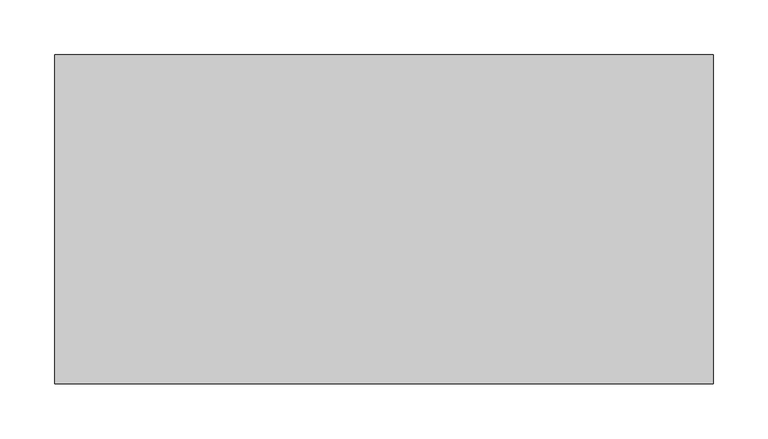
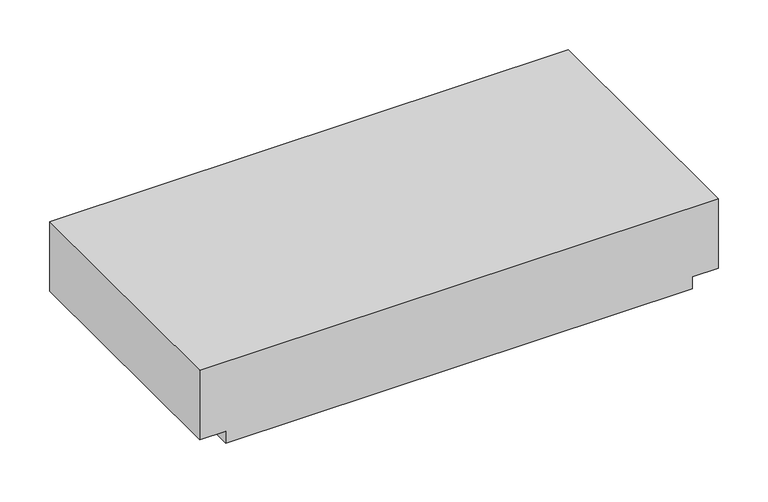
"""IFC4 building model written with IfcOpenShell, lengths in millimetres: proxy geometry, Módulo Laje de Concreto Celular com Friso - Celucon : MLCC friso 10x30x60cm (A x B x C)."""

from ifc_helpers import new_model, si_unit, frame, origin, place, context, project, spatial, polyline, outline, extrude, source, transform, mapped, element, save


def generic_models_f0a144f9(model_context):
    return source(origin(), model_context, "Body", "SweptSolid", [
        extrude(outline(polyline([(100.0, 300.0), (100.0, -300.0), (15.0, -300.0), (15.0, -270.0), (0.0, -270.0), (0.0, 270.0), (15.0, 270.0), (15.0, 300.0), (100.0, 300.0)])), frame((0.0, -150.0, 0.0), z_axis=(0.0, 1.0, 0.0), x_axis=(0.0, 0.0, 1.0)), (0.0, 0.0, 1.0), 300.0),
    ])


if __name__ == "__main__":
    model = new_model("IFC4")
    model_context = context("Model", 3, world=origin())
    ifc_project = project(units=[si_unit("LENGTHUNIT", "METRE", prefix="MILLI")], contexts=[model_context])
    site = spatial("IfcSite", under=ifc_project)
    building = spatial("IfcBuilding", under=site)
    placement = place(None, origin())
    generic_models_shape = generic_models_f0a144f9(model_context)
    element("IfcBuildingElementProxy", 1, Name="Módulo Laje de Concreto Celular com Friso - Celucon : MLCC friso 10x30x60cm (A x B x C)", ObjectType="Módulo Laje de Concreto Celular com Friso - Celucon : MLCC friso 10x30x60cm (A x B x C)", at=placement, inside=building, context=model_context, shape_type="MappedRepresentation", body=[
        mapped(generic_models_shape, transform((0.0, 0.0, 0.0), x_axis=(1.0, 0.0, 0.0), y_axis=(0.0, 1.0, 0.0), z_axis=(0.0, 0.0, 1.0))),
    ])
    save(model, "model.ifc")
